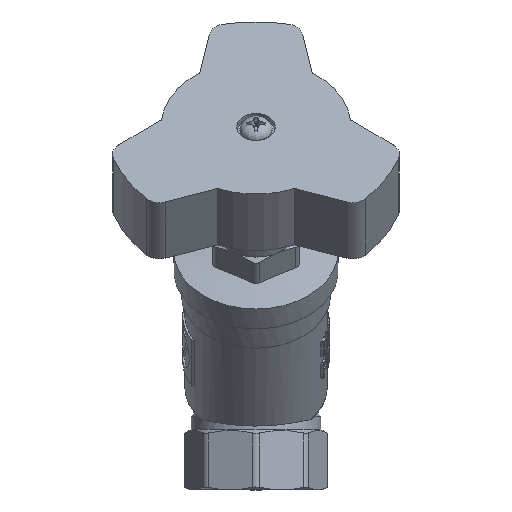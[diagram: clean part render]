
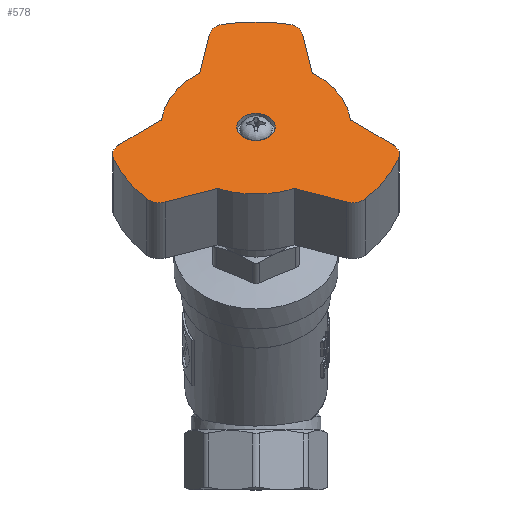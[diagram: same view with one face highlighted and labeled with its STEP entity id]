
A CAD part, top view. The second image highlights one B-rep face of the part: STEP entity #578.
In plain terms, the highlighted planar face has unit normal (0, 0.707, 0.707) as drawn and (0, 1, 0) by its records, which use the part's own axes.
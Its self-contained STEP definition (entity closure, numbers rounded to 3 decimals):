
#578=ADVANCED_FACE('',(#3890,#3892),#3894,.T.);
#3890=FACE_BOUND('',#3891,.T.);
#3891=EDGE_LOOP('',(#6906,#6907,#6908,#6909,#6910,#6911,#6912,#6913,#6914,#6915,
#6916,#6917,#6918,#6919,#6920,#6921,#6922,#6923));
#3892=FACE_BOUND('',#3893,.T.);
#3893=EDGE_LOOP('',(#6924));
#3894=PLANE('',#3895);
#3895=AXIS2_PLACEMENT_3D('',#3896,#3897,#3898);
#3896=CARTESIAN_POINT('',(0.,18.4,0.));
#3897=DIRECTION('',(0.,1.,0.));
#3898=DIRECTION('',(-1.,0.,0.));
#6906=ORIENTED_EDGE('',*,*,#8220,.F.);
#6907=ORIENTED_EDGE('',*,*,#8221,.T.);
#6908=ORIENTED_EDGE('',*,*,#8222,.T.);
#6909=ORIENTED_EDGE('',*,*,#8223,.T.);
#6910=ORIENTED_EDGE('',*,*,#8224,.F.);
#6911=ORIENTED_EDGE('',*,*,#8225,.T.);
#6912=ORIENTED_EDGE('',*,*,#8226,.F.);
#6913=ORIENTED_EDGE('',*,*,#8227,.T.);
#6914=ORIENTED_EDGE('',*,*,#8228,.T.);
#6915=ORIENTED_EDGE('',*,*,#8229,.T.);
#6916=ORIENTED_EDGE('',*,*,#8230,.F.);
#6917=ORIENTED_EDGE('',*,*,#8231,.T.);
#6918=ORIENTED_EDGE('',*,*,#8232,.F.);
#6919=ORIENTED_EDGE('',*,*,#8233,.T.);
#6920=ORIENTED_EDGE('',*,*,#8234,.T.);
#6921=ORIENTED_EDGE('',*,*,#8235,.T.);
#6922=ORIENTED_EDGE('',*,*,#8236,.F.);
#6923=ORIENTED_EDGE('',*,*,#8237,.T.);
#6924=ORIENTED_EDGE('',*,*,#8218,.T.);
#8218=EDGE_CURVE('',#10136,#10136,#10137,.F.);
#8220=EDGE_CURVE('',#10140,#10141,#10142,.F.);
#8221=EDGE_CURVE('',#10140,#10143,#10144,.T.);
#8222=EDGE_CURVE('',#10143,#10145,#10146,.T.);
#8223=EDGE_CURVE('',#10145,#10147,#10148,.T.);
#8224=EDGE_CURVE('',#10149,#10147,#10150,.F.);
#8225=EDGE_CURVE('',#10149,#10151,#10152,.T.);
#8226=EDGE_CURVE('',#10153,#10151,#10154,.F.);
#8227=EDGE_CURVE('',#10153,#10155,#10156,.T.);
#8228=EDGE_CURVE('',#10155,#10157,#10158,.T.);
#8229=EDGE_CURVE('',#10157,#10159,#10160,.T.);
#8230=EDGE_CURVE('',#10161,#10159,#10162,.F.);
#8231=EDGE_CURVE('',#10161,#10163,#10164,.T.);
#8232=EDGE_CURVE('',#10165,#10163,#10166,.F.);
#8233=EDGE_CURVE('',#10165,#10167,#10168,.T.);
#8234=EDGE_CURVE('',#10167,#10169,#10170,.T.);
#8235=EDGE_CURVE('',#10169,#10171,#10172,.T.);
#8236=EDGE_CURVE('',#10173,#10171,#10174,.F.);
#8237=EDGE_CURVE('',#10173,#10141,#10175,.T.);
#10136=VERTEX_POINT('',#23478);
#10137=CIRCLE('',#23479,4.45);
#10140=VERTEX_POINT('',#23488);
#10141=VERTEX_POINT('',#23489);
#10142=CIRCLE('',#23490,4.);
#10143=VERTEX_POINT('',#23494);
#10144=LINE('',#23495,#23496);
#10145=VERTEX_POINT('',#23498);
#10146=CIRCLE('',#23499,22.);
#10147=VERTEX_POINT('',#23503);
#10148=LINE('',#23504,#23505);
#10149=VERTEX_POINT('',#23507);
#10150=CIRCLE('',#23508,4.);
#10151=VERTEX_POINT('',#23512);
#10152=CIRCLE('',#23513,34.5);
#10153=VERTEX_POINT('',#23517);
#10154=CIRCLE('',#23518,4.);
#10155=VERTEX_POINT('',#23522);
#10156=LINE('',#23523,#23524);
#10157=VERTEX_POINT('',#23526);
#10158=CIRCLE('',#23527,22.);
#10159=VERTEX_POINT('',#23531);
#10160=LINE('',#23532,#23533);
#10161=VERTEX_POINT('',#23535);
#10162=CIRCLE('',#23536,4.);
#10163=VERTEX_POINT('',#23540);
#10164=CIRCLE('',#23541,34.5);
#10165=VERTEX_POINT('',#23545);
#10166=CIRCLE('',#23546,4.);
#10167=VERTEX_POINT('',#23550);
#10168=LINE('',#23551,#23552);
#10169=VERTEX_POINT('',#23554);
#10170=CIRCLE('',#23555,22.);
#10171=VERTEX_POINT('',#23559);
#10172=LINE('',#23560,#23561);
#10173=VERTEX_POINT('',#23563);
#10174=CIRCLE('',#23564,4.);
#10175=CIRCLE('',#23568,34.5);
#23478=CARTESIAN_POINT('',(0.,18.4,-4.45));
#23479=AXIS2_PLACEMENT_3D('',#23480,#23481,#23482);
#23480=CARTESIAN_POINT('',(0.,18.4,0.));
#23481=DIRECTION('',(0.,1.,0.));
#23482=DIRECTION('',(0.,0.,-1.));
#23488=CARTESIAN_POINT('',(20.963,18.4,-24.534));
#23489=CARTESIAN_POINT('',(25.259,18.4,-23.499));
#23490=AXIS2_PLACEMENT_3D('',#23491,#23492,#23493);
#23491=CARTESIAN_POINT('',(22.331,18.4,-20.775));
#23492=DIRECTION('',(0.,1.,0.));
#23493=DIRECTION('',(0.732,0.,-0.681));
#23494=CARTESIAN_POINT('',(8.87,18.4,-20.132));
#23495=CARTESIAN_POINT('',(20.963,18.4,-24.534));
#23496=VECTOR('',#23497,1.);
#23497=DIRECTION('',(-0.94,0.,0.342));
#23498=CARTESIAN_POINT('',(-8.87,18.4,-20.132));
#23499=AXIS2_PLACEMENT_3D('',#23500,#23501,#23502);
#23500=CARTESIAN_POINT('',(0.,18.4,0.));
#23501=DIRECTION('',(0.,1.,0.));
#23502=DIRECTION('',(0.403,0.,-0.915));
#23503=CARTESIAN_POINT('',(-20.963,18.4,-24.534));
#23504=CARTESIAN_POINT('',(-8.87,18.4,-20.132));
#23505=VECTOR('',#23506,1.);
#23506=DIRECTION('',(-0.94,0.,-0.342));
#23507=CARTESIAN_POINT('',(-25.259,18.4,-23.499));
#23508=AXIS2_PLACEMENT_3D('',#23509,#23510,#23511);
#23509=CARTESIAN_POINT('',(-22.331,18.4,-20.775));
#23510=DIRECTION('',(0.,1.,0.));
#23511=DIRECTION('',(0.342,0.,-0.94));
#23512=CARTESIAN_POINT('',(-32.981,18.4,-10.125));
#23513=AXIS2_PLACEMENT_3D('',#23514,#23515,#23516);
#23514=CARTESIAN_POINT('',(0.,18.4,0.));
#23515=DIRECTION('',(0.,1.,0.));
#23516=DIRECTION('',(-0.732,0.,-0.681));
#23517=CARTESIAN_POINT('',(-31.728,18.4,-5.887));
#23518=AXIS2_PLACEMENT_3D('',#23519,#23520,#23521);
#23519=CARTESIAN_POINT('',(-29.157,18.4,-8.951));
#23520=DIRECTION('',(0.,1.,0.));
#23521=DIRECTION('',(-0.956,0.,-0.293));
#23522=CARTESIAN_POINT('',(-21.87,18.4,2.384));
#23523=CARTESIAN_POINT('',(-31.728,18.4,-5.887));
#23524=VECTOR('',#23525,1.);
#23525=DIRECTION('',(0.766,0.,0.643));
#23526=CARTESIAN_POINT('',(-13.,18.4,17.748));
#23527=AXIS2_PLACEMENT_3D('',#23528,#23529,#23530);
#23528=CARTESIAN_POINT('',(0.,18.4,0.));
#23529=DIRECTION('',(0.,1.,0.));
#23530=DIRECTION('',(-0.994,0.,0.108));
#23531=CARTESIAN_POINT('',(-10.765,18.4,30.421));
#23532=CARTESIAN_POINT('',(-13.,18.4,17.748));
#23533=VECTOR('',#23534,1.);
#23534=DIRECTION('',(0.174,0.,0.985));
#23535=CARTESIAN_POINT('',(-7.721,18.4,33.625));
#23536=AXIS2_PLACEMENT_3D('',#23537,#23538,#23539);
#23537=CARTESIAN_POINT('',(-6.826,18.4,29.726));
#23538=DIRECTION('',(0.,1.,0.));
#23539=DIRECTION('',(-0.985,0.,0.174));
#23540=CARTESIAN_POINT('',(7.721,18.4,33.625));
#23541=AXIS2_PLACEMENT_3D('',#23542,#23543,#23544);
#23542=CARTESIAN_POINT('',(0.,18.4,0.));
#23543=DIRECTION('',(0.,1.,0.));
#23544=DIRECTION('',(-0.224,0.,0.975));
#23545=CARTESIAN_POINT('',(10.765,18.4,30.421));
#23546=AXIS2_PLACEMENT_3D('',#23547,#23548,#23549);
#23547=CARTESIAN_POINT('',(6.826,18.4,29.726));
#23548=DIRECTION('',(0.,1.,0.));
#23549=DIRECTION('',(0.224,0.,0.975));
#23550=CARTESIAN_POINT('',(13.,18.4,17.748));
#23551=CARTESIAN_POINT('',(10.765,18.4,30.421));
#23552=VECTOR('',#23553,1.);
#23553=DIRECTION('',(0.174,0.,-0.985));
#23554=CARTESIAN_POINT('',(21.87,18.4,2.384));
#23555=AXIS2_PLACEMENT_3D('',#23556,#23557,#23558);
#23556=CARTESIAN_POINT('',(0.,18.4,0.));
#23557=DIRECTION('',(0.,1.,0.));
#23558=DIRECTION('',(0.591,0.,0.807));
#23559=CARTESIAN_POINT('',(31.728,18.4,-5.887));
#23560=CARTESIAN_POINT('',(21.87,18.4,2.384));
#23561=VECTOR('',#23562,1.);
#23562=DIRECTION('',(0.766,0.,-0.643));
#23563=CARTESIAN_POINT('',(32.981,18.4,-10.125));
#23564=AXIS2_PLACEMENT_3D('',#23565,#23566,#23567);
#23565=CARTESIAN_POINT('',(29.157,18.4,-8.951));
#23566=DIRECTION('',(0.,1.,0.));
#23567=DIRECTION('',(0.643,0.,0.766));
#23568=AXIS2_PLACEMENT_3D('',#23569,#23570,#23571);
#23569=CARTESIAN_POINT('',(0.,18.4,0.));
#23570=DIRECTION('',(0.,1.,0.));
#23571=DIRECTION('',(0.956,0.,-0.293));
